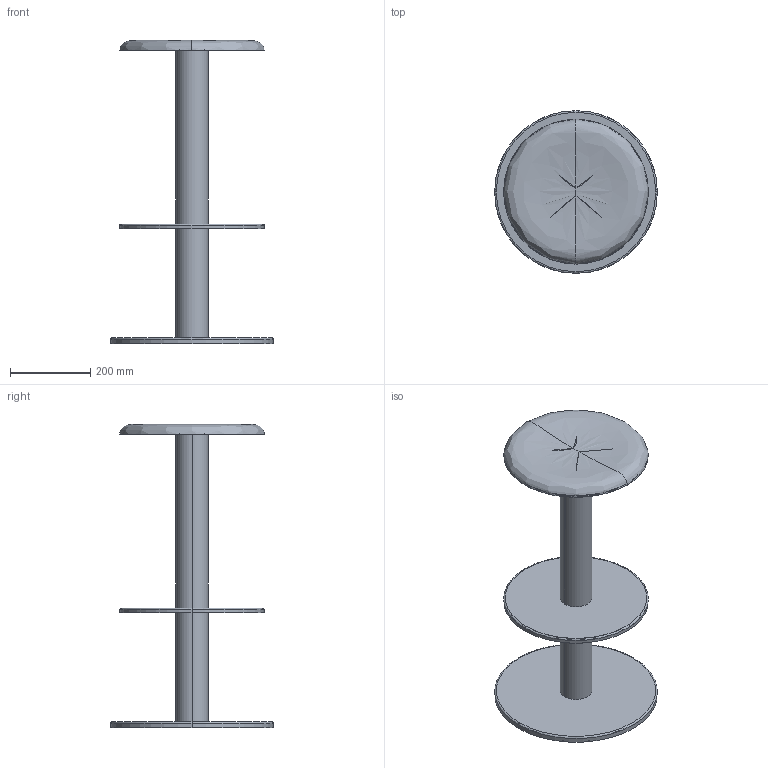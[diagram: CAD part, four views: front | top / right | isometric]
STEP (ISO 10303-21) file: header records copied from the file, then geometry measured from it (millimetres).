
FILE_DESCRIPTION (( 'STEP AP214' ), '1' );
FILE_NAME ('Coupe H75.STEP', '2026-06-18T13:13:55', ( '' ), ( '' ), 'SwSTEP 2.0', 'SolidWorks 2025', '' );
FILE_SCHEMA (( 'AUTOMOTIVE_DESIGN' ));
Length unit declared in the file: millimetre
Products named in the file (1): Coupe H75
Bounding box: 405 x 405 x 756 mm (x, y, z)
Volume: 3253277.3 mm3; surface area: 1324967.5 mm2
Topology: 1 solids, 3 shells, 46 faces, 88 edges, 55 vertices
Faces by surface type: cylinder 20, bspline 14, plane 12
Entity records: 1497 total; most frequent: CARTESIAN_POINT 605, DIRECTION 182, ORIENTED_EDGE 176, AXIS2_PLACEMENT_3D 91, EDGE_CURVE 88, CIRCLE 58, EDGE_LOOP 55, VERTEX_POINT 55
